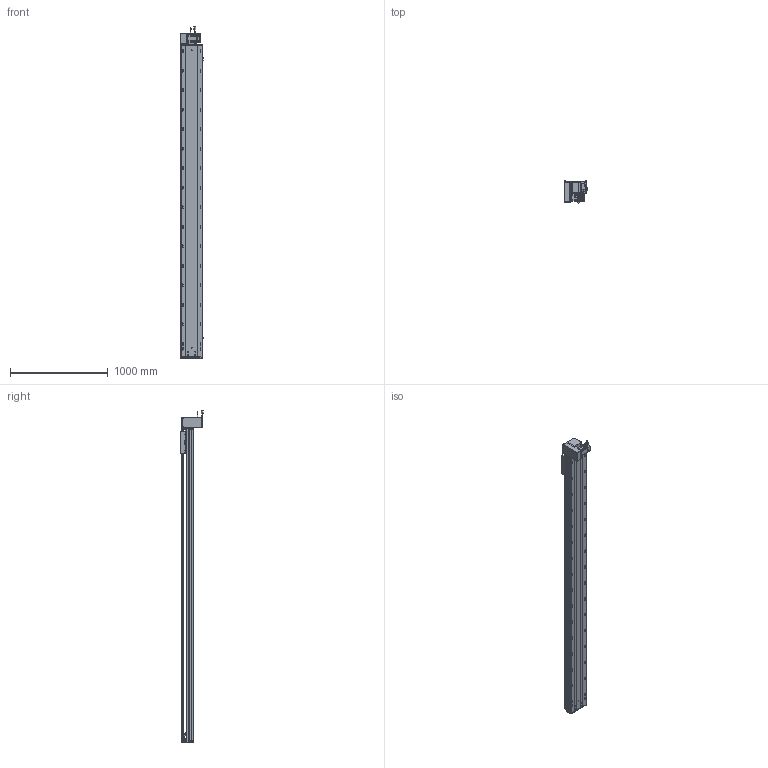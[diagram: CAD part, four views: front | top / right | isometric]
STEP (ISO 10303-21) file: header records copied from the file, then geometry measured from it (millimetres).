
FILE_DESCRIPTION (( 'STEP AP203' ), '1' );
FILE_NAME ('RY220-T-300-DL.SLDASM_2850.step', '2022-07-25T07:55:17', ( '' ), ( '' ), 'SwSTEP 2.0', 'SolidWorks 2016', '' );
FILE_SCHEMA (( 'CONFIG_CONTROL_DESIGN' ));
Length unit declared in the file: millimetre
Products named in the file (14): RY220-T-300-DL.SLDASM_2850; RY220-俋离672覜茼んえ; RY220-T-湍謫欶(鍼踢); RY220-T-蛌殏萇儂假蚾啣(750W); RY220翋肮祭謫釱; 滅袉蝶18-15; RY220-T菁釱-300_2850; 怢湛750W_ECMA-CX0807ES; RY220圉猾敕々湍臏賑輸; RY220-同步轮副支撑座6304×2; 覜茼ん672; RY220-T-300-奻裔啣_2850; RY220翋肮祭謫裔啣; 110A-T-肮祭謫釱傷裔
Assembly tree (18 placements, depth 2):
  RY220-T-300-DL.SLDASM_2850
    RY220-T菁釱-300_2850
    RY220翋肮祭謫釱
    覜茼ん672  x3
    RY220圉猾敕々湍臏賑輸
    RY220-T-300-奻裔啣_2850
    RY220-俋离672覜茼んえ
    滅袉蝶18-15  x3
    RY220翋肮祭謫裔啣  x2
    110A-T-肮祭謫釱傷裔
    怢湛750W_ECMA-CX0807ES
    RY220-T-湍謫欶(鍼踢)
    RY220-T-蛌殏萇儂假蚾啣(750W)
    RY220-同步轮副支撑座6304×2
Bounding box: 239.7 x 240.74 x 3403.27 mm (x, y, z)
Volume: 24228912.1 mm3; surface area: 7483668.2 mm2
Topology: 19 solids, 19 shells, 3012 faces, 8335 edges, 5220 vertices
Faces by surface type: cylinder 1488, plane 1069, cone 373, bspline 56, sphere 16, torus 10
Entity records: 100515 total; most frequent: CARTESIAN_POINT 28367, ORIENTED_EDGE 14906, DIRECTION 14396, EDGE_CURVE 7453, AXIS2_PLACEMENT_3D 5198, VERTEX_POINT 4844, VECTOR 4000, LINE 4000
